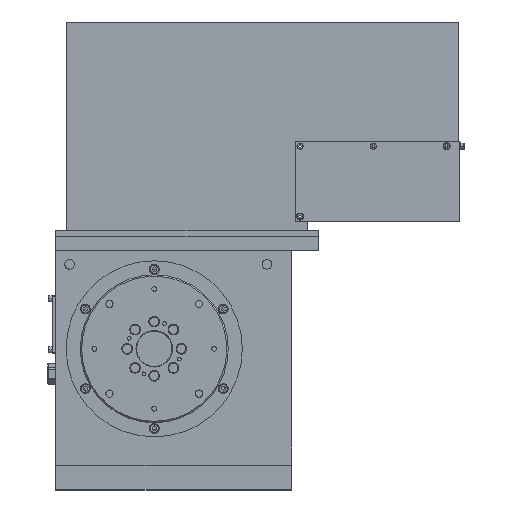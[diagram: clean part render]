
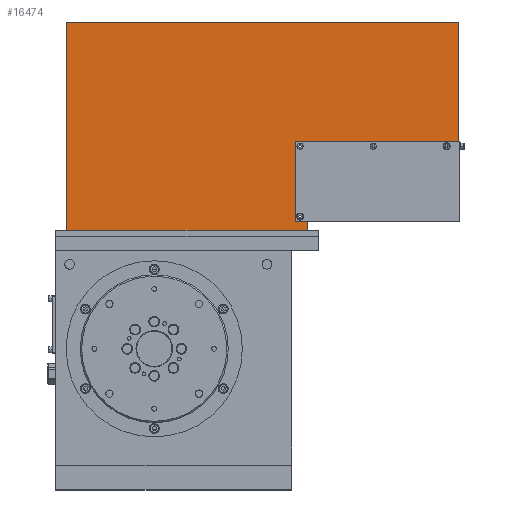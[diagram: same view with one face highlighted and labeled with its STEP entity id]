
A CAD part, top view. The second image highlights one B-rep face of the part: STEP entity #16474.
In plain terms, the highlighted planar face has unit normal (0, 0, 1).
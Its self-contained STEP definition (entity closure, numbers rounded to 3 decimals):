
#118 = EDGE_CURVE ( 'NONE', #22200, #15844, #10586, .T. ) ;
#156 = DIRECTION ( 'NONE',  ( 0., 0., 1. ) ) ;
#163 = ORIENTED_EDGE ( 'NONE', *, *, #8365, .T. ) ;
#420 = DIRECTION ( 'NONE',  ( -1., 0., 0. ) ) ;
#506 = CARTESIAN_POINT ( 'NONE',  ( -124.3, 168., 209.3 ) ) ;
#860 = CARTESIAN_POINT ( 'NONE',  ( 415., 287.7, 209.3 ) ) ;
#898 = AXIS2_PLACEMENT_3D ( 'NONE', #22223, #2591, #15326 ) ;
#1803 = ORIENTED_EDGE ( 'NONE', *, *, #17583, .F. ) ;
#1893 = CARTESIAN_POINT ( 'NONE',  ( 217.3, -251.033, 209.3 ) ) ;
#2050 = VECTOR ( 'NONE', #7370, 1000. ) ;
#2185 = CARTESIAN_POINT ( 'NONE',  ( 233., 168., 209.3 ) ) ;
#2294 = DIRECTION ( 'NONE',  ( 1., 0., 0. ) ) ;
#2591 = DIRECTION ( 'NONE',  ( 0., 0., 1. ) ) ;
#2668 = VERTEX_POINT ( 'NONE', #16208 ) ;
#2755 = DIRECTION ( 'NONE',  ( 0., -1., 0. ) ) ;
#2886 = LINE ( 'NONE', #15270, #22450 ) ;
#2931 = VERTEX_POINT ( 'NONE', #19195 ) ;
#3055 = DIRECTION ( 'NONE',  ( 0., 0., 1. ) ) ;
#3063 = PLANE ( 'NONE',  #898 ) ;
#3334 = VERTEX_POINT ( 'NONE', #4919 ) ;
#3571 = CARTESIAN_POINT ( 'NONE',  ( 412.85, 287.7, 209.3 ) ) ;
#3587 = DIRECTION ( 'NONE',  ( 1., 0., 0. ) ) ;
#3864 = CARTESIAN_POINT ( 'NONE',  ( 432.3, 281.9, 209.3 ) ) ;
#3975 = CARTESIAN_POINT ( 'NONE',  ( 432.3, 464., 209.3 ) ) ;
#4249 = VERTEX_POINT ( 'NONE', #3571 ) ;
#4284 = DIRECTION ( 'NONE',  ( 0., 0., 1. ) ) ;
#4450 = VERTEX_POINT ( 'NONE', #506 ) ;
#4465 = FACE_BOUND ( 'NONE', #13504, .T. ) ;
#4510 = LINE ( 'NONE', #20738, #12029 ) ;
#4567 = EDGE_LOOP ( 'NONE', ( #16201, #20991 ) ) ;
#4838 = EDGE_CURVE ( 'NONE', #11924, #3334, #4863, .T. ) ;
#4863 = CIRCLE ( 'NONE', #10833, 2.15 ) ;
#4919 = CARTESIAN_POINT ( 'NONE',  ( 313.15, 287.7, 209.3 ) ) ;
#5167 = AXIS2_PLACEMENT_3D ( 'NONE', #10922, #7306, #9072 ) ;
#5244 = CARTESIAN_POINT ( 'NONE',  ( -124.3, 464., 209.3 ) ) ;
#5356 = VECTOR ( 'NONE', #9879, 1000. ) ;
#5428 = CARTESIAN_POINT ( 'NONE',  ( 207., 187.7, 209.3 ) ) ;
#5809 = LINE ( 'NONE', #2185, #21533 ) ;
#5901 = CIRCLE ( 'NONE', #7028, 2.15 ) ;
#6022 = CARTESIAN_POINT ( 'NONE',  ( 432.3, 464., 209.3 ) ) ;
#6062 = CIRCLE ( 'NONE', #20980, 2.15 ) ;
#6140 = EDGE_CURVE ( 'NONE', #4249, #8696, #6295, .T. ) ;
#6295 = CIRCLE ( 'NONE', #16364, 2.15 ) ;
#6529 = DIRECTION ( 'NONE',  ( 0., 0., 1. ) ) ;
#6545 = EDGE_LOOP ( 'NONE', ( #10894, #15290 ) ) ;
#6551 = ORIENTED_EDGE ( 'NONE', *, *, #7730, .F. ) ;
#6565 = AXIS2_PLACEMENT_3D ( 'NONE', #860, #13143, #13370 ) ;
#6949 = EDGE_LOOP ( 'NONE', ( #13383, #163, #15484, #23087, #14636, #13715 ) ) ;
#7028 = AXIS2_PLACEMENT_3D ( 'NONE', #5428, #156, #12667 ) ;
#7306 = DIRECTION ( 'NONE',  ( 0., 0., 1. ) ) ;
#7370 = DIRECTION ( 'NONE',  ( 1., 0., 0. ) ) ;
#7658 = EDGE_CURVE ( 'NONE', #21783, #8739, #4510, .T. ) ;
#7730 = EDGE_CURVE ( 'NONE', #3334, #11924, #6062, .T. ) ;
#7791 = CARTESIAN_POINT ( 'NONE',  ( 308.85, 287.7, 209.3 ) ) ;
#8365 = EDGE_CURVE ( 'NONE', #2931, #11039, #9279, .T. ) ;
#8473 = CIRCLE ( 'NONE', #15903, 2.15 ) ;
#8660 = CARTESIAN_POINT ( 'NONE',  ( 204.85, 287.7, 209.3 ) ) ;
#8696 = VERTEX_POINT ( 'NONE', #11926 ) ;
#8739 = VERTEX_POINT ( 'NONE', #3864 ) ;
#9072 = DIRECTION ( 'NONE',  ( 1., 0., 0. ) ) ;
#9279 = LINE ( 'NONE', #1893, #18765 ) ;
#9618 = CARTESIAN_POINT ( 'NONE',  ( 209.15, 187.7, 209.3 ) ) ;
#9879 = DIRECTION ( 'NONE',  ( -1., 0., 0. ) ) ;
#9897 = CARTESIAN_POINT ( 'NONE',  ( 207., 187.7, 209.3 ) ) ;
#10083 = VERTEX_POINT ( 'NONE', #5244 ) ;
#10191 = DIRECTION ( 'NONE',  ( 1., 0., 0. ) ) ;
#10586 = CIRCLE ( 'NONE', #21780, 2.15 ) ;
#10806 = CARTESIAN_POINT ( 'NONE',  ( 311., 287.7, 209.3 ) ) ;
#10833 = AXIS2_PLACEMENT_3D ( 'NONE', #22531, #6529, #13998 ) ;
#10894 = ORIENTED_EDGE ( 'NONE', *, *, #12175, .F. ) ;
#10922 = CARTESIAN_POINT ( 'NONE',  ( 207., 287.7, 209.3 ) ) ;
#11039 = VERTEX_POINT ( 'NONE', #19757 ) ;
#11044 = CIRCLE ( 'NONE', #6565, 2.15 ) ;
#11322 = EDGE_LOOP ( 'NONE', ( #6551, #11663 ) ) ;
#11585 = FACE_OUTER_BOUND ( 'NONE', #6949, .T. ) ;
#11663 = ORIENTED_EDGE ( 'NONE', *, *, #4838, .F. ) ;
#11924 = VERTEX_POINT ( 'NONE', #7791 ) ;
#11926 = CARTESIAN_POINT ( 'NONE',  ( 417.15, 287.7, 209.3 ) ) ;
#12029 = VECTOR ( 'NONE', #2755, 1000. ) ;
#12175 = EDGE_CURVE ( 'NONE', #2668, #14095, #12248, .T. ) ;
#12248 = CIRCLE ( 'NONE', #5167, 2.15 ) ;
#12288 = EDGE_CURVE ( 'NONE', #15844, #22200, #5901, .T. ) ;
#12667 = DIRECTION ( 'NONE',  ( 1., 0., 0. ) ) ;
#13143 = DIRECTION ( 'NONE',  ( 0., 0., 1. ) ) ;
#13225 = FACE_BOUND ( 'NONE', #4567, .T. ) ;
#13370 = DIRECTION ( 'NONE',  ( 1., 0., 0. ) ) ;
#13383 = ORIENTED_EDGE ( 'NONE', *, *, #15425, .F. ) ;
#13504 = EDGE_LOOP ( 'NONE', ( #1803, #16461 ) ) ;
#13715 = ORIENTED_EDGE ( 'NONE', *, *, #20137, .F. ) ;
#13868 = DIRECTION ( 'NONE',  ( 0., 0., 1. ) ) ;
#13909 = CARTESIAN_POINT ( 'NONE',  ( 207., 287.7, 209.3 ) ) ;
#13998 = DIRECTION ( 'NONE',  ( 1., 0., 0. ) ) ;
#14095 = VERTEX_POINT ( 'NONE', #8660 ) ;
#14098 = CARTESIAN_POINT ( 'NONE',  ( 415., 287.7, 209.3 ) ) ;
#14236 = EDGE_CURVE ( 'NONE', #10083, #21783, #14708, .T. ) ;
#14314 = DIRECTION ( 'NONE',  ( 1., 0., 0. ) ) ;
#14401 = DIRECTION ( 'NONE',  ( 0., 1., 0. ) ) ;
#14636 = ORIENTED_EDGE ( 'NONE', *, *, #14236, .F. ) ;
#14708 = LINE ( 'NONE', #3975, #2050 ) ;
#14992 = EDGE_CURVE ( 'NONE', #14095, #2668, #8473, .T. ) ;
#15093 = FACE_BOUND ( 'NONE', #11322, .T. ) ;
#15270 = CARTESIAN_POINT ( 'NONE',  ( -124.3, -251.033, 209.3 ) ) ;
#15290 = ORIENTED_EDGE ( 'NONE', *, *, #14992, .F. ) ;
#15326 = DIRECTION ( 'NONE',  ( 1., 0., 0. ) ) ;
#15425 = EDGE_CURVE ( 'NONE', #2931, #4450, #5809, .T. ) ;
#15484 = ORIENTED_EDGE ( 'NONE', *, *, #22977, .F. ) ;
#15844 = VERTEX_POINT ( 'NONE', #9618 ) ;
#15903 = AXIS2_PLACEMENT_3D ( 'NONE', #13909, #3055, #10191 ) ;
#16201 = ORIENTED_EDGE ( 'NONE', *, *, #12288, .F. ) ;
#16208 = CARTESIAN_POINT ( 'NONE',  ( 209.15, 287.7, 209.3 ) ) ;
#16364 = AXIS2_PLACEMENT_3D ( 'NONE', #14098, #13868, #3587 ) ;
#16461 = ORIENTED_EDGE ( 'NONE', *, *, #6140, .F. ) ;
#16474 = ADVANCED_FACE ( 'NONE', ( #17082, #13225, #15093, #4465, #11585 ), #3063, .T. ) ;
#17082 = FACE_BOUND ( 'NONE', #6545, .T. ) ;
#17470 = DIRECTION ( 'NONE',  ( 0., 0., 1. ) ) ;
#17583 = EDGE_CURVE ( 'NONE', #8696, #4249, #11044, .T. ) ;
#18546 = DIRECTION ( 'NONE',  ( 0., 1., 0. ) ) ;
#18765 = VECTOR ( 'NONE', #14401, 1000. ) ;
#19195 = CARTESIAN_POINT ( 'NONE',  ( 217.3, 168., 209.3 ) ) ;
#19757 = CARTESIAN_POINT ( 'NONE',  ( 217.3, 281.9, 209.3 ) ) ;
#20137 = EDGE_CURVE ( 'NONE', #4450, #10083, #2886, .T. ) ;
#20728 = LINE ( 'NONE', #22370, #5356 ) ;
#20738 = CARTESIAN_POINT ( 'NONE',  ( 432.3, 461.7, 209.3 ) ) ;
#20980 = AXIS2_PLACEMENT_3D ( 'NONE', #10806, #17470, #14314 ) ;
#20991 = ORIENTED_EDGE ( 'NONE', *, *, #118, .F. ) ;
#21128 = CARTESIAN_POINT ( 'NONE',  ( 204.85, 187.7, 209.3 ) ) ;
#21533 = VECTOR ( 'NONE', #420, 1000. ) ;
#21780 = AXIS2_PLACEMENT_3D ( 'NONE', #9897, #4284, #2294 ) ;
#21783 = VERTEX_POINT ( 'NONE', #6022 ) ;
#22200 = VERTEX_POINT ( 'NONE', #21128 ) ;
#22223 = CARTESIAN_POINT ( 'NONE',  ( -122., -251.033, 209.3 ) ) ;
#22370 = CARTESIAN_POINT ( 'NONE',  ( 432.3, 281.9, 209.3 ) ) ;
#22450 = VECTOR ( 'NONE', #18546, 1000. ) ;
#22531 = CARTESIAN_POINT ( 'NONE',  ( 311., 287.7, 209.3 ) ) ;
#22977 = EDGE_CURVE ( 'NONE', #8739, #11039, #20728, .T. ) ;
#23087 = ORIENTED_EDGE ( 'NONE', *, *, #7658, .F. ) ;
